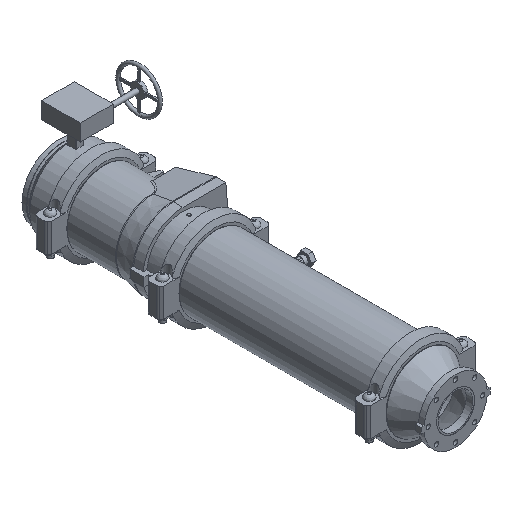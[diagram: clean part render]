
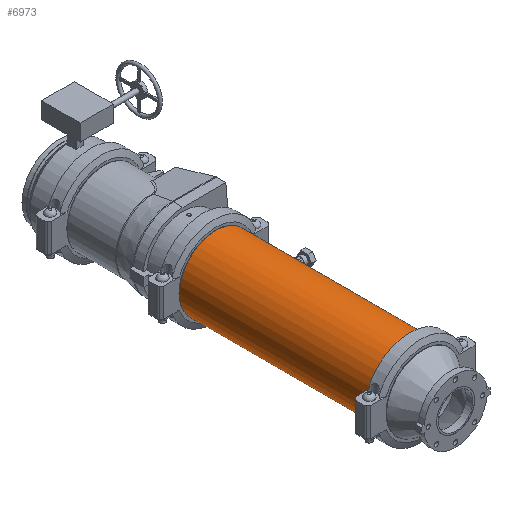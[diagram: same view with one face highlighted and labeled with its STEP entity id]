
A CAD part, isometric view. The second image highlights one B-rep face of the part: STEP entity #6973.
In plain terms, the highlighted cylindrical face has radius 161.925 mm (diameter 323.85 mm), a full revolution.
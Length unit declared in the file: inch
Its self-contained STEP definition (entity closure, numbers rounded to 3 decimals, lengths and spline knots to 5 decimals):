
#541=FACE_OUTER_BOUND('',#953,.T.);
#953=EDGE_LOOP('',(#4656,#4657,#4658,#4659,#4660,#4661));
#1410=LINE('',#10717,#1925);
#1925=VECTOR('',#8603,6.375);
#2462=CIRCLE('',#7634,6.375);
#2463=CIRCLE('',#7635,6.375);
#2464=CIRCLE('',#7637,6.375);
#2465=CIRCLE('',#7638,6.375);
#2873=VERTEX_POINT('',#10708);
#2874=VERTEX_POINT('',#10709);
#2875=VERTEX_POINT('',#10713);
#2876=VERTEX_POINT('',#10714);
#3572=EDGE_CURVE('',#2873,#2874,#2462,.T.);
#3573=EDGE_CURVE('',#2874,#2873,#2463,.T.);
#3574=EDGE_CURVE('',#2875,#2876,#2464,.T.);
#3575=EDGE_CURVE('',#2876,#2875,#2465,.T.);
#3576=EDGE_CURVE('',#2876,#2874,#1410,.T.);
#4656=ORIENTED_EDGE('',*,*,#3574,.F.);
#4657=ORIENTED_EDGE('',*,*,#3575,.F.);
#4658=ORIENTED_EDGE('',*,*,#3576,.T.);
#4659=ORIENTED_EDGE('',*,*,#3573,.T.);
#4660=ORIENTED_EDGE('',*,*,#3572,.T.);
#4661=ORIENTED_EDGE('',*,*,#3576,.F.);
#6436=CYLINDRICAL_SURFACE('',#7636,6.375);
#6973=ADVANCED_FACE('',(#541),#6436,.T.);
#7634=AXIS2_PLACEMENT_3D('',#10710,#8593,#8594);
#7635=AXIS2_PLACEMENT_3D('',#10711,#8595,#8596);
#7636=AXIS2_PLACEMENT_3D('',#10712,#8597,#8598);
#7637=AXIS2_PLACEMENT_3D('',#10715,#8599,#8600);
#7638=AXIS2_PLACEMENT_3D('',#10716,#8601,#8602);
#8593=DIRECTION('center_axis',(1.,0.,0.));
#8594=DIRECTION('ref_axis',(0.,0.,-1.));
#8595=DIRECTION('center_axis',(1.,0.,0.));
#8596=DIRECTION('ref_axis',(0.,0.,-1.));
#8597=DIRECTION('center_axis',(1.,0.,0.));
#8598=DIRECTION('ref_axis',(0.,1.,0.));
#8599=DIRECTION('center_axis',(1.,0.,0.));
#8600=DIRECTION('ref_axis',(0.,0.,-1.));
#8601=DIRECTION('center_axis',(1.,0.,0.));
#8602=DIRECTION('ref_axis',(0.,0.,-1.));
#8603=DIRECTION('',(-1.,0.,0.));
#10708=CARTESIAN_POINT('',(-16.7785,6.375,0.));
#10709=CARTESIAN_POINT('',(-16.7785,-6.375,0.));
#10710=CARTESIAN_POINT('Origin',(-16.7785,0.,0.));
#10711=CARTESIAN_POINT('Origin',(-16.7785,0.,0.));
#10712=CARTESIAN_POINT('Origin',(0.,0.,0.));
#10713=CARTESIAN_POINT('',(16.7785,6.375,0.));
#10714=CARTESIAN_POINT('',(16.7785,-6.375,0.));
#10715=CARTESIAN_POINT('Origin',(16.7785,0.,0.));
#10716=CARTESIAN_POINT('Origin',(16.7785,0.,0.));
#10717=CARTESIAN_POINT('',(0.,-6.375,0.));
